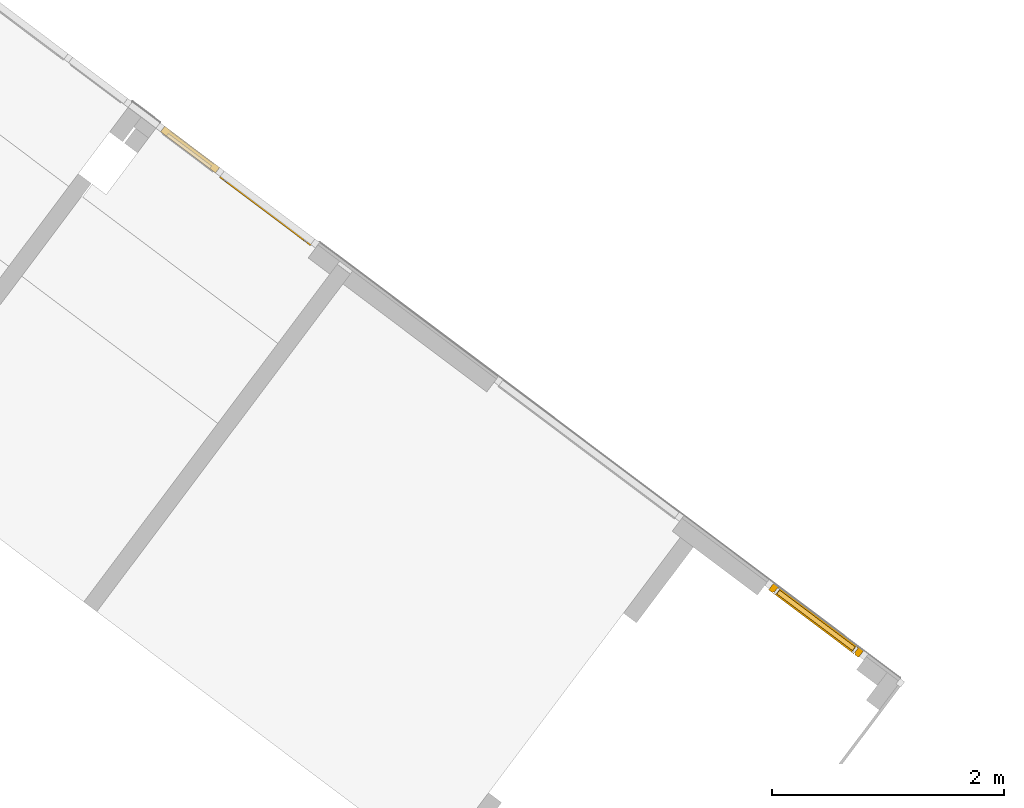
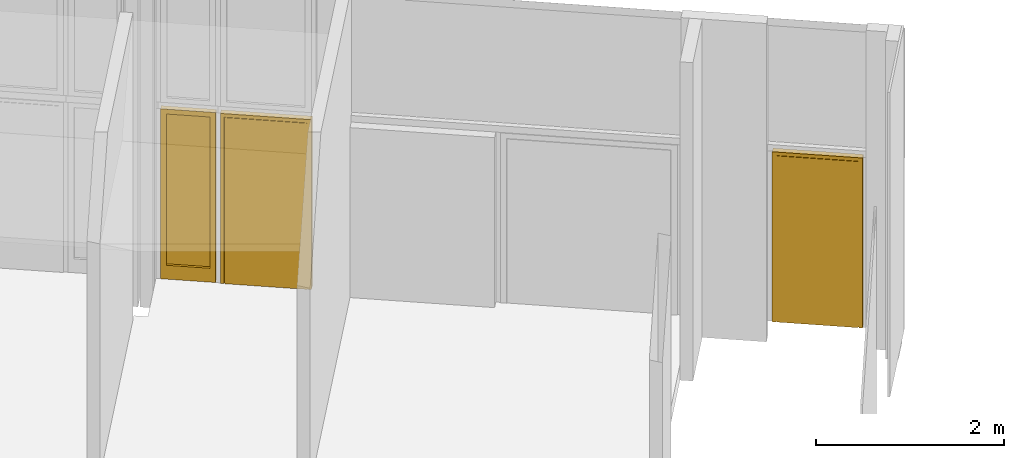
# One storey, part 17 of 18: 2 doors, 1 window, 2 elements without a shape of their own.
"""IFC2X3 building model written with IfcOpenShell, lengths in metres."""

from ifc_helpers import new_model, entity, si_unit, converted_unit, derived_unit, direction, frame, origin, place, context, subcontext, project, spatial, faceted_brep, source, transform, mapped, material, material_list, type_object, type_shapes, element, aggregate, save


model = new_model("IFC2X3")

# Units and contexts
model_context = context("Model", 3, precision=1e-05, world=origin(), true_north=direction((6.123031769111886e-17, 1.0)))
body_context = subcontext(model_context, "Body", "Model", "MODEL_VIEW")
ifc_project = project(units=[si_unit("LENGTHUNIT", "METRE"), si_unit("AREAUNIT", "SQUARE_METRE"), si_unit("VOLUMEUNIT", "CUBIC_METRE"), converted_unit("PLANEANGLEUNIT", "DEGREE", entity("IfcRatioMeasure", 0.017453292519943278), si_unit("PLANEANGLEUNIT", "RADIAN"), dimensions=[0, 0, 0, 0, 0, 0, 0]), si_unit("MASSUNIT", "GRAM", prefix="KILO"), derived_unit("MASSDENSITYUNIT", [(si_unit("MASSUNIT", "GRAM", prefix="KILO"), 1), (si_unit("LENGTHUNIT", "METRE"), -3)]), derived_unit("IONCONCENTRATIONUNIT", [(si_unit("MASSUNIT", "GRAM", prefix="KILO"), 1), (si_unit("LENGTHUNIT", "METRE"), -3)]), derived_unit("MOMENTOFINERTIAUNIT", [(si_unit("LENGTHUNIT", "METRE"), 4)]), si_unit("TIMEUNIT", "SECOND"), si_unit("FREQUENCYUNIT", "HERTZ"), si_unit("THERMODYNAMICTEMPERATUREUNIT", "DEGREE_CELSIUS"), derived_unit("THERMALTRANSMITTANCEUNIT", [(si_unit("MASSUNIT", "GRAM", prefix="KILO"), 1), (si_unit("THERMODYNAMICTEMPERATUREUNIT", "KELVIN"), -1), (si_unit("TIMEUNIT", "SECOND"), -3)]), derived_unit("THERMALCONDUCTANCEUNIT", [(si_unit("MASSUNIT", "GRAM", prefix="KILO"), 1), (si_unit("THERMODYNAMICTEMPERATUREUNIT", "KELVIN"), -1), (si_unit("TIMEUNIT", "SECOND"), -3), (si_unit("LENGTHUNIT", "METRE"), 1)]), derived_unit("VOLUMETRICFLOWRATEUNIT", [(si_unit("LENGTHUNIT", "METRE"), 3), (si_unit("TIMEUNIT", "SECOND"), -1)]), derived_unit("MASSFLOWRATEUNIT", [(si_unit("MASSUNIT", "GRAM", prefix="KILO"), 1), (si_unit("TIMEUNIT", "SECOND"), -1)]), derived_unit("ROTATIONALFREQUENCYUNIT", [(si_unit("TIMEUNIT", "SECOND"), -1)]), si_unit("ELECTRICCURRENTUNIT", "AMPERE"), si_unit("ELECTRICVOLTAGEUNIT", "VOLT"), si_unit("POWERUNIT", "WATT"), si_unit("FORCEUNIT", "NEWTON", prefix="KILO"), si_unit("ILLUMINANCEUNIT", "LUX"), si_unit("LUMINOUSFLUXUNIT", "LUMEN"), si_unit("LUMINOUSINTENSITYUNIT", "CANDELA"), derived_unit("USERDEFINED", [(si_unit("MASSUNIT", "GRAM", prefix="KILO"), -1), (si_unit("LENGTHUNIT", "METRE"), -2), (si_unit("TIMEUNIT", "SECOND"), 3), (si_unit("LUMINOUSFLUXUNIT", "LUMEN"), 1)]), derived_unit("USERDEFINED", [(si_unit("MASSUNIT", "GRAM", prefix="KILO"), 1), (si_unit("TIMEUNIT", "SECOND"), -3), (si_unit("LENGTHUNIT", "METRE"), 3), (si_unit("ELECTRICCURRENTUNIT", "AMPERE"), -2)]), derived_unit("SOUNDPOWERUNIT", [(si_unit("MASSUNIT", "GRAM", prefix="KILO"), 1), (si_unit("TIMEUNIT", "SECOND"), -3), (si_unit("LENGTHUNIT", "METRE"), 2)]), derived_unit("SOUNDPRESSUREUNIT", [(si_unit("MASSUNIT", "GRAM", prefix="KILO"), 1), (si_unit("LENGTHUNIT", "METRE"), -1), (si_unit("TIMEUNIT", "SECOND"), -2)]), derived_unit("LINEARVELOCITYUNIT", [(si_unit("LENGTHUNIT", "METRE"), 1), (si_unit("TIMEUNIT", "SECOND"), -1)]), si_unit("PRESSUREUNIT", "PASCAL"), derived_unit("USERDEFINED", [(si_unit("MASSUNIT", "GRAM", prefix="KILO"), 1), (si_unit("LENGTHUNIT", "METRE"), -2), (si_unit("TIMEUNIT", "SECOND"), -2)]), derived_unit("LINEARFORCEUNIT", [(si_unit("MASSUNIT", "GRAM", prefix="KILO"), 1), (si_unit("TIMEUNIT", "SECOND"), -2)]), derived_unit("PLANARFORCEUNIT", [(si_unit("MASSUNIT", "GRAM", prefix="KILO"), 1), (si_unit("LENGTHUNIT", "METRE"), -1), (si_unit("TIMEUNIT", "SECOND"), -2)]), derived_unit("SPECIFICHEATCAPACITYUNIT", [(si_unit("THERMODYNAMICTEMPERATUREUNIT", "KELVIN"), -1), (si_unit("LENGTHUNIT", "METRE"), 2), (si_unit("TIMEUNIT", "SECOND"), -2)]), derived_unit("HEATINGVALUEUNIT", [(si_unit("LENGTHUNIT", "METRE"), 2), (si_unit("TIMEUNIT", "SECOND"), -2)]), derived_unit("VAPORPERMEABILITYUNIT", [(si_unit("LENGTHUNIT", "METRE"), -1), (si_unit("TIMEUNIT", "SECOND"), 1)]), derived_unit("DYNAMICVISCOSITYUNIT", [(si_unit("MASSUNIT", "GRAM", prefix="KILO"), 1), (si_unit("TIMEUNIT", "SECOND"), -1), (si_unit("LENGTHUNIT", "METRE"), -1)]), derived_unit("THERMALEXPANSIONCOEFFICIENTUNIT", [(si_unit("THERMODYNAMICTEMPERATUREUNIT", "KELVIN"), -1)]), derived_unit("MODULUSOFELASTICITYUNIT", [(si_unit("MASSUNIT", "GRAM", prefix="KILO"), 1), (si_unit("LENGTHUNIT", "METRE"), -1), (si_unit("TIMEUNIT", "SECOND"), -2)]), derived_unit("ISOTHERMALMOISTURECAPACITYUNIT", [(si_unit("LENGTHUNIT", "METRE"), 3), (si_unit("MASSUNIT", "GRAM", prefix="KILO"), -1)]), derived_unit("MOISTUREDIFFUSIVITYUNIT", [(si_unit("TIMEUNIT", "SECOND"), -1), (si_unit("LENGTHUNIT", "METRE"), 2)])], contexts=[model_context])

# Site, building, storey
site_placement = place(None, frame((0.0, 0.0, 235.0), z_axis=(0.0, 0.0, 1.0), x_axis=(-0.7996477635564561, 0.6004693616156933, 0.0)))
site = spatial("IfcSite", under=ifc_project, at=site_placement, Name="Default", CompositionType="ELEMENT")
building_placement = place(site_placement, origin())
building = spatial("IfcBuilding", under=site, at=building_placement, CompositionType="ELEMENT")
storey_placement = place(building_placement, frame((0.0, 0.0, -4.459999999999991)))
storey = spatial("IfcBuildingStorey", under=building, at=storey_placement, Name="PS1- Vestuari", CompositionType="ELEMENT", Elevation=-4.459999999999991)

# Curtain wall, window, door
curtain_wall_type = type_object("IfcCurtainWallType", Name="Muro cortina:MC- EXT- AL6", PredefinedType="NOTDEFINED")
curtain_wall_1_placement = place(storey_placement, frame((0.0, 0.0, 4.459999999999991)))
curtain_wall_1 = element("IfcCurtainWall", 1, at=curtain_wall_1_placement, inside=storey, type_object=curtain_wall_type, Name="Muro cortina:MC- EXT- AL6", ObjectType="Muro cortina:MC- EXT- AL6")
ifc_material_1 = material(Name="_Alumini- T1- Perfil")
ifc_material_2 = material(Name="_Vidre")
ifc_material_list = material_list([ifc_material_1, ifc_material_2])
window_style = type_object("IfcWindowStyle", Name="MC- Alu- Conjunt vidre fix- 62x60 cm- +15cm:MC- Alu- Conjunt vidre fix- 62x60 cm- +15cm", ConstructionType="NOTDEFINED", OperationType="NOTDEFINED", ParameterTakesPrecedence=False, Sizeable=False, material=ifc_material_list)
shared_shape_1 = source(origin(), body_context, "Body", "Brep", [
    faceted_brep([(0.2960000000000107, -0.05999999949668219, 0.0), (0.2960000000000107, 0.0, 0.0), (0.2960000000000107, 0.0, 2.2099418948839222), (0.2960000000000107, -0.05999999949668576, 2.2099418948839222), (-0.2960000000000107, 0.0, 0.0), (-0.2960000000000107, -0.05999999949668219, 0.0), (-0.2960000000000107, 0.0, 2.2099418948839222), (-0.23319318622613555, 0.0, 0.1800028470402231), (0.23319318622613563, 0.0, 0.1800028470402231), (0.23319318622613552, 0.0, 2.147135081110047), (-0.2331931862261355, 0.0, 2.147135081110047), (-0.2960000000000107, -0.05999999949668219, 2.2099418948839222), (0.233196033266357, -0.05999999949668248, 0.18000000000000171), (-0.23319603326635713, -0.05999999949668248, 0.18000000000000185), (-0.23319603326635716, -0.05999999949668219, 2.1471379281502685), (0.23319603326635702, -0.05999999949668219, 2.1471379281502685), (-0.23319318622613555, -0.00760005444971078, 0.180002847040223), (0.23319318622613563, -0.00760005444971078, 0.18000284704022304), (0.2331931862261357, -0.007600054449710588, 2.147135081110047), (-0.23319318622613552, -0.007600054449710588, 2.147135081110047), (0.2471932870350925, -0.007600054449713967, 2.161135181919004), (-0.24719328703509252, -0.007600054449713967, 2.161135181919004), (-0.24719328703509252, -0.0076000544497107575, 0.16619603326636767), (0.2471932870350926, -0.0076000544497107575, 0.16619603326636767), (-0.24719328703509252, -0.03160022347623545, 2.161135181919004), (-0.24719328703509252, -0.03160022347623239, 0.16619603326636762), (0.2471932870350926, -0.0316002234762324, 0.16619603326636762), (0.24719328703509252, -0.03160022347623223, 2.161135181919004), (-0.23319603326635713, -0.03160022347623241, 0.1800000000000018), (0.233196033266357, -0.03160022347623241, 0.1800000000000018), (0.2331960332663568, -0.03160022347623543, 2.1471379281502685), (-0.23319603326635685, -0.03160022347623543, 2.1471379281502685)], [[[0, 1, 2, 3]], [[4, 1, 0, 5]], [[2, 1, 4, 6], [7, 8, 9, 10]], [[0, 3, 11, 5], [12, 13, 14, 15]], [[11, 6, 4, 5]], [[8, 7, 16, 17]], [[18, 9, 8, 17]], [[10, 19, 16, 7]], [[17, 16, 19, 18], [20, 21, 22, 23]], [[22, 21, 24, 25]], [[23, 22, 25, 26]], [[26, 27, 20, 23]], [[28, 29, 30, 31], [24, 27, 26, 25]], [[29, 28, 13, 12]], [[15, 30, 29, 12]], [[31, 14, 13, 28]], [[3, 2, 6, 11]], [[9, 18, 19, 10]], [[20, 27, 24, 21]], [[30, 15, 14, 31]]], outer=[[True], [True], [True, False], [True, False], [True], [True], [True], [True], [False, True], [True], [True], [True], [False, True], [True], [True], [True], [True], [True], [True], [True]]),
    faceted_brep([(-0.2471932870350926, -0.007600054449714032, 0.1661960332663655), (0.24719328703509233, -0.007600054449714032, 0.1661960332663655), (0.24719328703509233, -0.03160022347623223, 0.1661960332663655), (-0.2471932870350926, -0.03160022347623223, 0.1661960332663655), (-0.2471932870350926, -0.007600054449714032, 2.1609418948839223), (0.24719328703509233, -0.007600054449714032, 2.1609418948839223), (0.24719328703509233, -0.03160022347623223, 2.1609418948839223), (-0.2471932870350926, -0.03160022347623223, 2.1609418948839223)], [[[0, 1, 2, 3]], [[4, 5, 1, 0]], [[5, 6, 2, 1]], [[6, 7, 3, 2]], [[7, 4, 0, 3]], [[4, 7, 6, 5]]]),
])
type_shapes(window_style, [shared_shape_1])
window_placement = place(curtain_wall_1_placement, frame((48.69914768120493, -40.46519175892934, -4.459999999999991), z_axis=(0.0, 0.0, 1.0), x_axis=(-1.0, 0.0, 0.0)))
window = element("IfcWindow", 2, at=window_placement, type_object=window_style, material=ifc_material_list, Name="MC- Alu- Conjunt vidre fix- 62x60 cm- +15cm:MC- Alu- Conjunt vidre fix- 62x60 cm- +15cm", ObjectType="MC- Alu- Conjunt vidre fix- 62x60 cm- +15cm:MC- Alu- Conjunt vidre fix- 62x60 cm- +15cm", OverallHeight=2.209941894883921, OverallWidth=0.592000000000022, context=body_context, shape_type="MappedRepresentation", body=[
    mapped(shared_shape_1, transform((0.0, 0.0, 0.0), scale=1.0)),
])
door_style_1 = type_object("IfcDoorStyle", Name="MC- Alu- Conjunt porta- 70x60 cm- opacat:MC- Alu- Conjunt porta- 70x60 cm- opacat", ConstructionType="NOTDEFINED", OperationType="NOTDEFINED", ParameterTakesPrecedence=False, Sizeable=False, material=ifc_material_1)
shared_shape_2 = source(origin(), body_context, "Body", "Brep", [
    faceted_brep([(0.4121999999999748, -2.9457204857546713e-07, 0.02800000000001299), (0.4121999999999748, -0.015000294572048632, 0.02800000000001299), (-0.412199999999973, -0.01500029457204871, 0.02800000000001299), (-0.41219999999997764, -2.9457204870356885e-07, 0.02800000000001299), (0.4121999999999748, -2.945720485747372e-07, 2.1326418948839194), (0.4121999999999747, -0.015000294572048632, 2.1326418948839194), (-0.412199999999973, -0.01500029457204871, 2.1326418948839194), (-0.4121999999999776, -2.9457204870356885e-07, 2.1326418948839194)], [[[0, 1, 2, 3]], [[4, 5, 1, 0]], [[5, 6, 2, 1]], [[6, 7, 3, 2]], [[7, 4, 0, 3]], [[4, 7, 6, 5]]]),
    faceted_brep([(0.4121999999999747, -0.0699999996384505, 0.02800000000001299), (-0.41219999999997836, -0.06999999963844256, 0.02800000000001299), (-0.4121999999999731, -0.05499999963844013, 0.02800000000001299), (0.4121999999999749, -0.054999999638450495, 0.02800000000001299), (0.4121999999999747, -0.0699999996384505, 2.1326418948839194), (-0.41219999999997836, -0.06999999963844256, 2.1326418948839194), (-0.41219999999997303, -0.05499999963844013, 2.1326418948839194), (0.4121999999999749, -0.054999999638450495, 2.1326418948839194)], [[[0, 1, 2, 3]], [[4, 5, 1, 0]], [[5, 6, 2, 1]], [[6, 7, 3, 2]], [[7, 4, 0, 3]], [[4, 7, 6, 5]]]),
    faceted_brep([(0.4401999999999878, -0.06570000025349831, 2.160641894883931), (0.4401999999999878, -0.06999999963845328, 2.1606418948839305), (0.4401999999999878, -0.06999999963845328, 0.0), (0.44019999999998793, -0.06570000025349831, 0.0), (0.41219999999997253, -0.06999999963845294, 0.028000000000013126), (-0.41219999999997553, -0.06999999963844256, 0.028000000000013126), (-0.41219999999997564, -0.06999999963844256, 2.132641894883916), (0.41219999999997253, -0.06999999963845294, 2.132641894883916), (-0.4401999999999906, -0.06999999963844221, 2.1606418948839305), (-0.4401999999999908, -0.06999999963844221, 0.0), (-0.44019999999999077, -0.06570000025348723, 0.0), (-0.4401999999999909, -0.06570000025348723, 2.160641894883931), (0.4161999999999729, -0.06570000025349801, 2.136641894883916), (-0.4161999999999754, -0.06570000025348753, 2.136641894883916), (-0.41619999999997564, -0.06570000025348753, 0.024000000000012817), (0.41619999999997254, -0.06570000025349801, 0.024000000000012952), (0.4161999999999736, -2.9457205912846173e-07, 2.136641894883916), (0.4161999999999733, -2.945720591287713e-07, 0.024000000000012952), (-0.4161999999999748, -2.945720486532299e-07, 0.024000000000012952), (-0.416199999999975, -2.945720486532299e-07, 2.136641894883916), (0.4121999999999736, -2.9457205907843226e-07, 2.132641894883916), (-0.4121999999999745, -2.9457204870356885e-07, 2.132641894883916), (-0.41219999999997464, -2.945720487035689e-07, 0.02800000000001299), (0.4121999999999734, -2.9457205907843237e-07, 0.028000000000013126)], [[[0, 1, 2, 3]], [[4, 5, 6, 7], [1, 8, 9, 2]], [[3, 2, 9, 10]], [[3, 10, 11, 0], [12, 13, 14, 15]], [[16, 12, 15, 17]], [[17, 15, 14, 18]], [[17, 18, 19, 16], [20, 21, 22, 23]], [[10, 9, 8, 11]], [[18, 14, 13, 19]], [[7, 20, 23, 4]], [[4, 23, 22, 5]], [[5, 22, 21, 6]], [[11, 8, 1, 0]], [[6, 21, 20, 7]], [[19, 13, 12, 16]]], outer=[[True], [False, True], [True], [True, False], [True], [True], [True, False], [True], [True], [True], [True], [True], [True], [True], [True]]),
    faceted_brep([(0.4894999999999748, -0.06999999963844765, 0.0), (0.4481999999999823, -0.06999999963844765, 0.0), (0.4481999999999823, -0.059699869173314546, 0.0), (0.4376999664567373, -0.059699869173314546, 0.0), (0.4376999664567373, -0.008800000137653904, 0.0), (0.4222000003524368, -0.008800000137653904, 0.0), (0.4222000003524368, 0.0, 0.0), (0.4894999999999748, 0.0, 0.0), (0.4894999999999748, -0.06999999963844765, 2.2099418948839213), (-0.4894999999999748, -0.06999999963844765, 2.2099418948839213), (-0.4894999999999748, -0.06999999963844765, 0.0), (-0.4481999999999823, -0.06999999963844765, 0.0), (-0.4481999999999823, -0.06999999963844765, 2.1686418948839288), (0.4481999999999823, -0.06999999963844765, 2.1686418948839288), (0.4481999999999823, -0.059699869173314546, 2.1686418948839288), (-0.4481999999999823, -0.059699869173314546, 2.1686418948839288), (-0.4481999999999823, -0.059699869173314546, 0.0), (-0.4376999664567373, -0.059699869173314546, 0.0), (-0.4376999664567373, -0.059699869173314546, 2.1581418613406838), (0.4376999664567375, -0.059699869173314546, 2.1581418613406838), (0.4376999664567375, -0.008800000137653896, 2.1581418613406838), (-0.4376999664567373, -0.008800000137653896, 2.1581418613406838), (-0.4376999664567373, -0.008800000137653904, 0.0), (-0.4222000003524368, -0.008800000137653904, 0.0), (-0.42220000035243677, -0.008800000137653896, 2.1426418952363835), (0.4222000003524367, -0.008800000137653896, 2.142641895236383), (0.4222000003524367, 0.0, 2.142641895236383), (-0.4222000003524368, 0.0, 2.1426418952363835), (-0.4222000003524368, 0.0, 0.0), (-0.4894999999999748, 0.0, 0.0), (-0.4894999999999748, 0.0, 2.2099418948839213), (0.48949999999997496, 0.0, 2.2099418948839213)], [[[0, 1, 2, 3, 4, 5, 6, 7]], [[1, 0, 8, 9, 10, 11, 12, 13]], [[2, 1, 13, 14]], [[3, 2, 14, 15, 16, 17, 18, 19]], [[4, 3, 19, 20]], [[5, 4, 20, 21, 22, 23, 24, 25]], [[6, 5, 25, 26]], [[7, 6, 26, 27, 28, 29, 30, 31]], [[0, 7, 31, 8]], [[10, 29, 28, 23, 22, 17, 16, 11]], [[9, 30, 29, 10]], [[27, 24, 23, 28]], [[21, 18, 17, 22]], [[15, 12, 11, 16]], [[14, 13, 12, 15]], [[20, 19, 18, 21]], [[26, 25, 24, 27]], [[8, 31, 30, 9]]]),
])
type_shapes(door_style_1, [shared_shape_2])
door_1_placement = place(curtain_wall_1_placement, frame((47.86364768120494, -40.46519175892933, -4.459999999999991), z_axis=(0.0, 0.0, 1.0), x_axis=(-1.0, 0.0, 0.0)))
door_1 = element("IfcDoor", 3, at=door_1_placement, type_object=door_style_1, material=ifc_material_1, Name="MC- Alu- Conjunt porta- 70x60 cm- opacat:MC- Alu- Conjunt porta- 70x60 cm- opacat", ObjectType="MC- Alu- Conjunt porta- 70x60 cm- opacat:MC- Alu- Conjunt porta- 70x60 cm- opacat", OverallHeight=2.209941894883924, OverallWidth=0.9789999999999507, context=body_context, shape_type="MappedRepresentation", body=[
    mapped(shared_shape_2, transform((0.0, 0.0, 0.0), scale=1.0)),
])
aggregate(curtain_wall_1, [window, door_1])

# Curtain wall, door
curtain_wall_2_placement = place(storey_placement, frame((0.0, 0.0, 4.459999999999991)))
curtain_wall_2 = element("IfcCurtainWall", 4, at=curtain_wall_2_placement, inside=storey, type_object=curtain_wall_type, Name="Muro cortina:MC- EXT- AL6", ObjectType="Muro cortina:MC- EXT- AL6")
door_style_2 = type_object("IfcDoorStyle", Name="MC- Alu- Conjunt porta- 70x60 cm- opacat:MC- Alu- Conjunt porta- 70x60 cm- opacat", ConstructionType="NOTDEFINED", OperationType="NOTDEFINED", ParameterTakesPrecedence=False, Sizeable=False, material=ifc_material_1)
shared_shape_3 = source(origin(), body_context, "Body", "Brep", [
    faceted_brep([(0.4077000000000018, -2.945720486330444e-07, 0.02800000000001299), (0.4077000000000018, -0.01500029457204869, 0.02800000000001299), (-0.40769999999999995, -0.015000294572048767, 0.02800000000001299), (-0.40770000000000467, -2.945720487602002e-07, 0.02800000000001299), (0.4077000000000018, -2.945720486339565e-07, 2.1326418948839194), (0.4077000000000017, -0.01500029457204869, 2.1326418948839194), (-0.40769999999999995, -0.015000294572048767, 2.1326418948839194), (-0.40770000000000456, -2.945720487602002e-07, 2.1326418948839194)], [[[0, 1, 2, 3]], [[4, 5, 1, 0]], [[5, 6, 2, 1]], [[6, 7, 3, 2]], [[7, 4, 0, 3]], [[4, 7, 6, 5]]]),
    faceted_brep([(0.4077000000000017, -0.06999999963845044, 0.02800000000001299), (-0.4077000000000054, -0.0699999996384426, 0.02800000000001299), (-0.4077000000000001, -0.054999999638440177, 0.02800000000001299), (0.40770000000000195, -0.05499999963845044, 0.02800000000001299), (0.4077000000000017, -0.06999999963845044, 2.1326418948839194), (-0.4077000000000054, -0.0699999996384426, 2.1326418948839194), (-0.40770000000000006, -0.054999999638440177, 2.1326418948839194), (0.40770000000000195, -0.05499999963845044, 2.1326418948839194)], [[[0, 1, 2, 3]], [[4, 5, 1, 0]], [[5, 6, 2, 1]], [[6, 7, 3, 2]], [[7, 4, 0, 3]], [[4, 7, 6, 5]]]),
    faceted_brep([(0.43570000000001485, -0.06570000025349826, 2.160641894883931), (0.43570000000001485, -0.06999999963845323, 2.1606418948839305), (0.43570000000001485, -0.06999999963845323, 0.0), (0.4357000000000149, -0.06570000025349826, 0.0), (0.40769999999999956, -0.06999999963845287, 0.028000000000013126), (-0.40770000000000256, -0.06999999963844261, 0.028000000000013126), (-0.40770000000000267, -0.06999999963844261, 2.132641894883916), (0.40769999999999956, -0.06999999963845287, 2.132641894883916), (-0.43570000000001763, -0.06999999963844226, 2.1606418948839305), (-0.43570000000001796, -0.06999999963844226, 0.0), (-0.4357000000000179, -0.0657000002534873, 0.0), (-0.4357000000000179, -0.0657000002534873, 2.160641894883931), (0.41169999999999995, -0.06570000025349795, 2.136641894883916), (-0.41170000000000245, -0.06570000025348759, 2.136641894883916), (-0.4117000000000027, -0.06570000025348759, 0.024000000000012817), (0.4116999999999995, -0.06570000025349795, 0.024000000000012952), (0.4117000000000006, -2.945720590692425e-07, 2.136641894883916), (0.41170000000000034, -2.9457205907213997e-07, 0.024000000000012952), (-0.41170000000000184, -2.9457204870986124e-07, 0.024000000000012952), (-0.41170000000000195, -2.9457204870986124e-07, 2.136641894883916), (0.40770000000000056, -2.9457205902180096e-07, 2.132641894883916), (-0.40770000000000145, -2.945720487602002e-07, 2.132641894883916), (-0.40770000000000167, -2.945720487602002e-07, 0.02800000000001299), (0.40770000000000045, -2.9457205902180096e-07, 0.028000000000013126)], [[[0, 1, 2, 3]], [[4, 5, 6, 7], [1, 8, 9, 2]], [[3, 2, 9, 10]], [[3, 10, 11, 0], [12, 13, 14, 15]], [[16, 12, 15, 17]], [[17, 15, 14, 18]], [[17, 18, 19, 16], [20, 21, 22, 23]], [[10, 9, 8, 11]], [[18, 14, 13, 19]], [[7, 20, 23, 4]], [[4, 23, 22, 5]], [[5, 22, 21, 6]], [[11, 8, 1, 0]], [[6, 21, 20, 7]], [[19, 13, 12, 16]]], outer=[[True], [False, True], [True], [True, False], [True], [True], [True, False], [True], [True], [True], [True], [True], [True], [True], [True]]),
    faceted_brep([(0.4850000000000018, -0.06999999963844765, 0.0), (0.4437000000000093, -0.06999999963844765, 0.0), (0.4437000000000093, -0.059699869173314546, 0.0), (0.43319996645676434, -0.059699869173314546, 0.0), (0.43319996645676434, -0.008800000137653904, 0.0), (0.41770000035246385, -0.008800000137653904, 0.0), (0.41770000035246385, 0.0, 0.0), (0.4850000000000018, 0.0, 0.0), (0.4850000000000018, -0.06999999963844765, 2.2099418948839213), (-0.4850000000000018, -0.06999999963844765, 2.2099418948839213), (-0.4850000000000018, -0.06999999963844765, 0.0), (-0.4437000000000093, -0.06999999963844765, 0.0), (-0.4437000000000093, -0.06999999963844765, 2.1686418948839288), (0.4437000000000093, -0.06999999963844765, 2.1686418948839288), (0.4437000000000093, -0.059699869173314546, 2.1686418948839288), (-0.4437000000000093, -0.059699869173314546, 2.1686418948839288), (-0.4437000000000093, -0.059699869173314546, 0.0), (-0.43319996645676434, -0.059699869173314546, 0.0), (-0.43319996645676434, -0.059699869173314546, 2.1581418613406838), (0.43319996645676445, -0.059699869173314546, 2.1581418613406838), (0.43319996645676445, -0.008800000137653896, 2.1581418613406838), (-0.43319996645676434, -0.008800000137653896, 2.1581418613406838), (-0.43319996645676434, -0.008800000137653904, 0.0), (-0.41770000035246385, -0.008800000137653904, 0.0), (-0.4177000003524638, -0.008800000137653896, 2.1426418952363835), (0.4177000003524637, -0.008800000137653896, 2.142641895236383), (0.4177000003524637, 0.0, 2.142641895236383), (-0.41770000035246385, 0.0, 2.1426418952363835), (-0.41770000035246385, 0.0, 0.0), (-0.4850000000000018, 0.0, 0.0), (-0.4850000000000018, 0.0, 2.2099418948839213), (0.485000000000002, 0.0, 2.2099418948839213)], [[[0, 1, 2, 3, 4, 5, 6, 7]], [[1, 0, 8, 9, 10, 11, 12, 13]], [[2, 1, 13, 14]], [[3, 2, 14, 15, 16, 17, 18, 19]], [[4, 3, 19, 20]], [[5, 4, 20, 21, 22, 23, 24, 25]], [[6, 5, 25, 26]], [[7, 6, 26, 27, 28, 29, 30, 31]], [[0, 7, 31, 8]], [[10, 29, 28, 23, 22, 17, 16, 11]], [[9, 30, 29, 10]], [[27, 24, 23, 28]], [[21, 18, 17, 22]], [[15, 12, 11, 16]], [[14, 13, 12, 15]], [[20, 19, 18, 21]], [[26, 25, 24, 27]], [[8, 31, 30, 9]]]),
])
type_shapes(door_style_2, [shared_shape_3])
door_2_placement = place(curtain_wall_2_placement, frame((41.94514768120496, -40.465191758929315, -4.459999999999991), z_axis=(0.0, 0.0, 1.0), x_axis=(-1.0, 0.0, 0.0)))
door_2 = element("IfcDoor", 5, at=door_2_placement, type_object=door_style_2, material=ifc_material_1, Name="MC- Alu- Conjunt porta- 70x60 cm- opacat:MC- Alu- Conjunt porta- 70x60 cm- opacat", ObjectType="MC- Alu- Conjunt porta- 70x60 cm- opacat:MC- Alu- Conjunt porta- 70x60 cm- opacat", OverallHeight=2.209941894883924, OverallWidth=0.9700000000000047, context=body_context, shape_type="MappedRepresentation", body=[
    mapped(shared_shape_3, transform((0.0, 0.0, 0.0), scale=1.0)),
])
aggregate(curtain_wall_2, [door_2])

save(model, "model.ifc")
